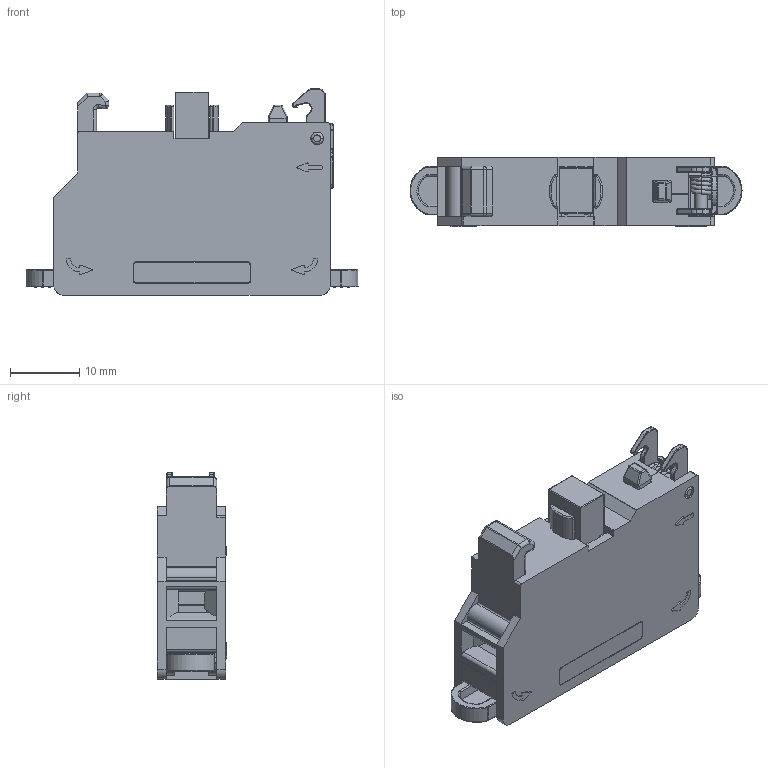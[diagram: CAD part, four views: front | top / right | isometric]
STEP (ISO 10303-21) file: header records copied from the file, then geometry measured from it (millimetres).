
FILE_DESCRIPTION (( 'STEP AP203' ), '1' );
FILE_NAME ('LB22SA1-NO.STEP', '2025-03-13T08:37:38', ( '微软用户' ), ( '微软中国' ), 'SwSTEP 2.0', 'SolidWorks 2022', '' );
FILE_SCHEMA (( 'CONFIG_CONTROL_DESIGN' ));
Products named in the file (1): LB22SA1-NO
Bounding box: 48 x 10.05 x 29.89 mm (x, y, z)
Volume: 5607.6 mm3; surface area: 9572.9 mm2
Topology: 1 solids, 15 shells, 1828 faces, 4879 edges, 3099 vertices
Faces by surface type: plane 863, cylinder 497, bspline 414, cone 54
Entity records: 69272 total; most frequent: CARTESIAN_POINT 27367, ORIENTED_EDGE 9736, DIRECTION 7250, EDGE_CURVE 4868, VERTEX_POINT 3099, VECTOR 2698, LINE 2698, AXIS2_PLACEMENT_3D 2276
